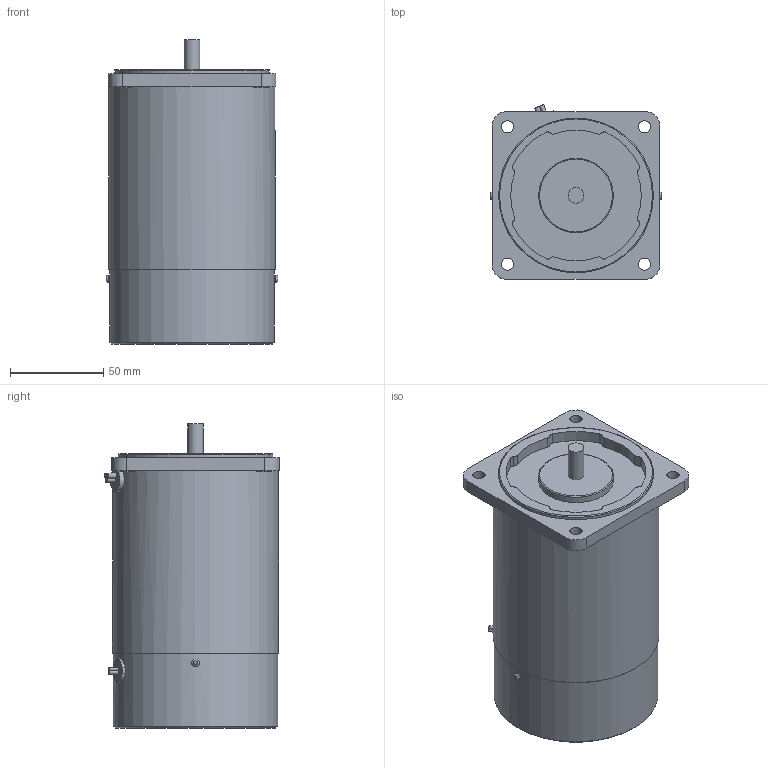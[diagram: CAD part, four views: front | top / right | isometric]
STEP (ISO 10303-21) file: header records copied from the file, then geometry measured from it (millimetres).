
FILE_DESCRIPTION((''),'2;1');
FILE_NAME('E:\2공장-도면\3D\표준형 3D(민규)\step file\B\K9IG40Nㅁ-B.stp','2014-11-13T12:29:52',('AHN'),(''),'Autodesk Inventor 2012','Autodesk Inventor 2012','');
FILE_SCHEMA(('CONFIG_CONTROL_DESIGN'));
Length unit declared in the file: millimetre
Products named in the file (1): K9ㅁG40Nㅁ-Bㄱ
Bounding box: 92 x 93.75 x 163 mm (x, y, z)
Volume: 900882.8 mm3; surface area: 60380.2 mm2
Topology: 1 solids, 1 shells, 84 faces, 190 edges, 118 vertices
Faces by surface type: cylinder 53, plane 26, torus 2, bspline 2, cone 1
Full cylindrical faces by diameter (mm): 1.8 x2, 4 x2, 6.5 x4, 8 x4, 8.47 x1, 13 x1, 40 x1, 83 x1, 88 x1, 89 x1
Entity records: 2532 total; most frequent: CARTESIAN_POINT 648, DIRECTION 431, ORIENTED_EDGE 324, AXIS2_PLACEMENT_3D 190, EDGE_CURVE 162, EDGE_LOOP 128, VERTEX_POINT 112, CIRCLE 107
